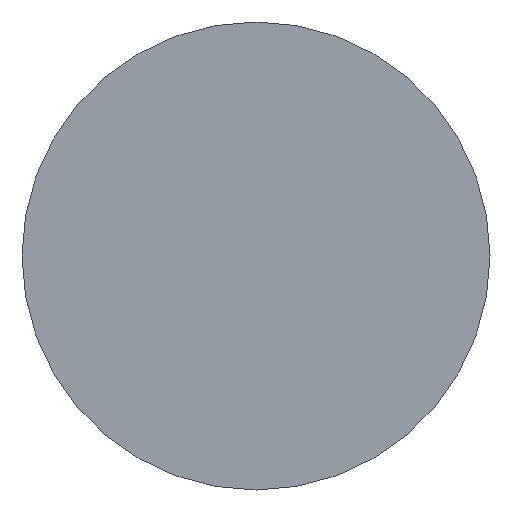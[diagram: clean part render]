
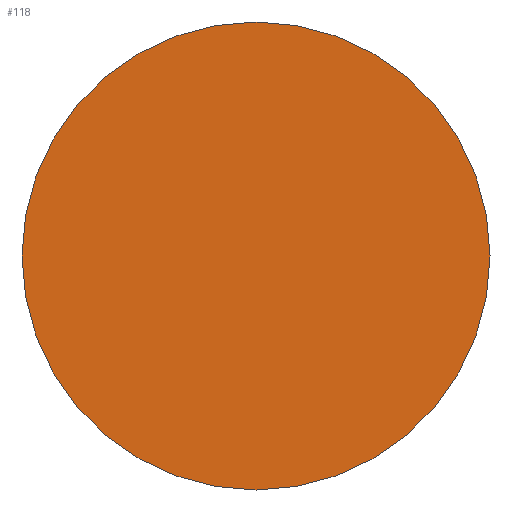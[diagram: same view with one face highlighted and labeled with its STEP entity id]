
A CAD part, front view. The second image highlights one B-rep face of the part: STEP entity #118.
In plain terms, the highlighted planar face has unit normal (0, -1, 0).
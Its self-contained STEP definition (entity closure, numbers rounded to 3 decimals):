
#61=CARTESIAN_POINT('Vertex',(-2.5,0.,0.)) ;
#66=CARTESIAN_POINT('Axis2P3D Location',(0.,0.,0.)) ;
#70=CARTESIAN_POINT('Vertex',(2.5,0.,0.)) ;
#92=CARTESIAN_POINT('Axis2P3D Location',(0.,0.,0.)) ;
#109=CARTESIAN_POINT('Axis2P3D Location',(0.,0.,0.)) ;
#67=DIRECTION('Axis2P3D Direction',(0.,1.,0.)) ;
#93=DIRECTION('Axis2P3D Direction',(0.,1.,0.)) ;
#110=DIRECTION('Axis2P3D Direction',(0.,1.,0.)) ;
#111=DIRECTION('Axis2P3D XDirection',(-1.,0.,0.)) ;
#68=AXIS2_PLACEMENT_3D('Circle Axis2P3D',#66,#67,$) ;
#94=AXIS2_PLACEMENT_3D('Circle Axis2P3D',#92,#93,$) ;
#112=AXIS2_PLACEMENT_3D('Plane Axis2P3D',#109,#110,#111) ;
#115=ORIENTED_EDGE('',*,*,#96,.F.) ;
#116=ORIENTED_EDGE('',*,*,#72,.F.) ;
#118=ADVANCED_FACE('Hauptk\X2\00F6\X0\rper',(#117),#113,.F.) ;
#69=CIRCLE('generated circle',#68,2.5) ;
#95=CIRCLE('generated circle',#94,2.5) ;
#72=EDGE_CURVE('',#62,#71,#69,.T.) ;
#96=EDGE_CURVE('',#71,#62,#95,.T.) ;
#114=EDGE_LOOP('',(#115,#116)) ;
#117=FACE_OUTER_BOUND('',#114,.T.) ;
#113=PLANE('',#112) ;
#62=VERTEX_POINT('',#61) ;
#71=VERTEX_POINT('',#70) ;
